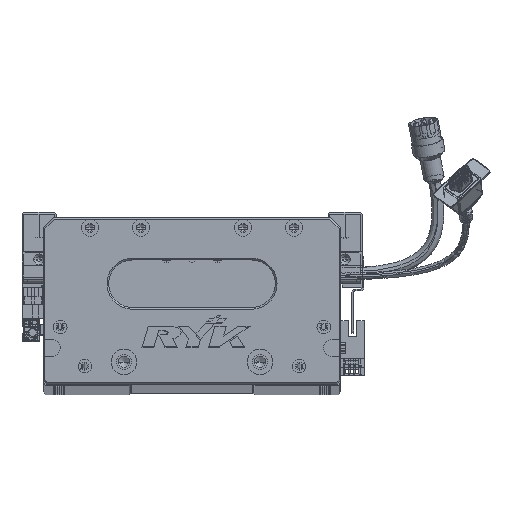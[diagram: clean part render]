
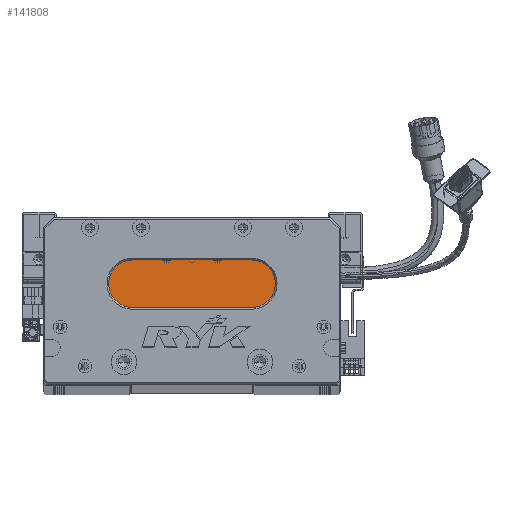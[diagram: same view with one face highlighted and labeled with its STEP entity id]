
A CAD part, top view. The second image highlights one B-rep face of the part: STEP entity #141808.
In plain terms, the highlighted planar face has unit normal (0, 0, 1) as drawn and (0, 0, -1) by its records, which use the part's own axes.
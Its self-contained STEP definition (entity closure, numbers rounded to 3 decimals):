
#991 = VERTEX_POINT ( 'NONE', #104886 ) ;
#3252 = FACE_OUTER_BOUND ( 'NONE', #92407, .T. ) ;
#8764 = LINE ( 'NONE', #113421, #34448 ) ;
#11011 = CARTESIAN_POINT ( 'NONE',  ( 38.5, 59., 18. ) ) ;
#18127 = VERTEX_POINT ( 'NONE', #94562 ) ;
#20411 = CARTESIAN_POINT ( 'NONE',  ( 122.5, 45., 18. ) ) ;
#23725 = PLANE ( 'NONE',  #87268 ) ;
#25246 = DIRECTION ( 'NONE',  ( -1., 0., 0. ) ) ;
#30484 = CARTESIAN_POINT ( 'NONE',  ( 122.5, 45., 18. ) ) ;
#30983 = ORIENTED_EDGE ( 'NONE', *, *, #91787, .T. ) ;
#34448 = VECTOR ( 'NONE', #112001, 1000. ) ;
#35326 = DIRECTION ( 'NONE',  ( 0., 0., -1. ) ) ;
#38843 = VECTOR ( 'NONE', #89330, 1000. ) ;
#42330 = AXIS2_PLACEMENT_3D ( 'NONE', #63556, #117153, #140153 ) ;
#43959 = CIRCLE ( 'NONE', #42330, 14. ) ;
#52315 = ORIENTED_EDGE ( 'NONE', *, *, #138730, .T. ) ;
#60098 = DIRECTION ( 'NONE',  ( -1., 0., 0. ) ) ;
#60854 = ORIENTED_EDGE ( 'NONE', *, *, #118176, .T. ) ;
#63556 = CARTESIAN_POINT ( 'NONE',  ( 122.5, 59., 18. ) ) ;
#66822 = EDGE_CURVE ( 'NONE', #991, #130960, #43959, .T. ) ;
#68048 = LINE ( 'NONE', #20411, #38843 ) ;
#71301 = VERTEX_POINT ( 'NONE', #11011 ) ;
#79422 = CARTESIAN_POINT ( 'NONE',  ( 52.5, 59., 18. ) ) ;
#80387 = AXIS2_PLACEMENT_3D ( 'NONE', #79422, #35326, #25246 ) ;
#86429 = AXIS2_PLACEMENT_3D ( 'NONE', #122738, #125631, #89726 ) ;
#87268 = AXIS2_PLACEMENT_3D ( 'NONE', #124254, #136235, #60098 ) ;
#89330 = DIRECTION ( 'NONE',  ( -1., 0., 0. ) ) ;
#89726 = DIRECTION ( 'NONE',  ( -1., 0., 0. ) ) ;
#91453 = CIRCLE ( 'NONE', #86429, 14. ) ;
#91787 = EDGE_CURVE ( 'NONE', #18127, #71301, #117570, .T. ) ;
#92407 = EDGE_LOOP ( 'NONE', ( #140393, #130297, #30983, #60854, #52315 ) ) ;
#94562 = CARTESIAN_POINT ( 'NONE',  ( 52.5, 45., 18. ) ) ;
#97138 = CARTESIAN_POINT ( 'NONE',  ( 52.5, 73., 18. ) ) ;
#100750 = EDGE_CURVE ( 'NONE', #130960, #18127, #68048, .T. ) ;
#104886 = CARTESIAN_POINT ( 'NONE',  ( 122.5, 73., 18. ) ) ;
#111447 = VERTEX_POINT ( 'NONE', #97138 ) ;
#112001 = DIRECTION ( 'NONE',  ( 1., 0., 0. ) ) ;
#113421 = CARTESIAN_POINT ( 'NONE',  ( 122.5, 73., 18. ) ) ;
#117153 = DIRECTION ( 'NONE',  ( 0., 0., -1. ) ) ;
#117570 = CIRCLE ( 'NONE', #80387, 14. ) ;
#118176 = EDGE_CURVE ( 'NONE', #71301, #111447, #91453, .T. ) ;
#122738 = CARTESIAN_POINT ( 'NONE',  ( 52.5, 59., 18. ) ) ;
#124254 = CARTESIAN_POINT ( 'NONE',  ( 122.5, 59., 18. ) ) ;
#125631 = DIRECTION ( 'NONE',  ( 0., 0., -1. ) ) ;
#130297 = ORIENTED_EDGE ( 'NONE', *, *, #100750, .T. ) ;
#130960 = VERTEX_POINT ( 'NONE', #30484 ) ;
#136235 = DIRECTION ( 'NONE',  ( 0., 0., -1. ) ) ;
#138730 = EDGE_CURVE ( 'NONE', #111447, #991, #8764, .T. ) ;
#140153 = DIRECTION ( 'NONE',  ( -1., 0., 0. ) ) ;
#140393 = ORIENTED_EDGE ( 'NONE', *, *, #66822, .T. ) ;
#141808 = ADVANCED_FACE ( 'NONE', ( #3252 ), #23725, .T. ) ;
